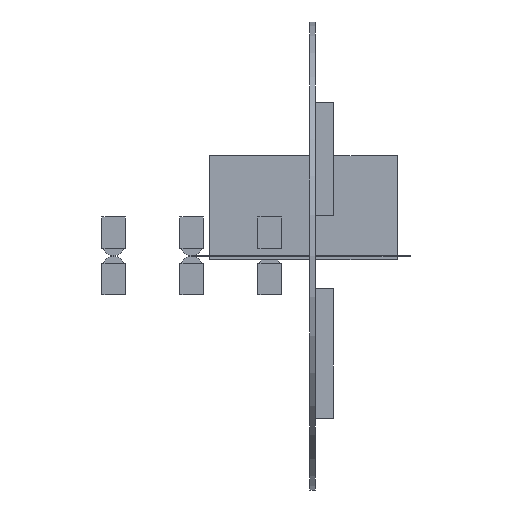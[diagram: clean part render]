
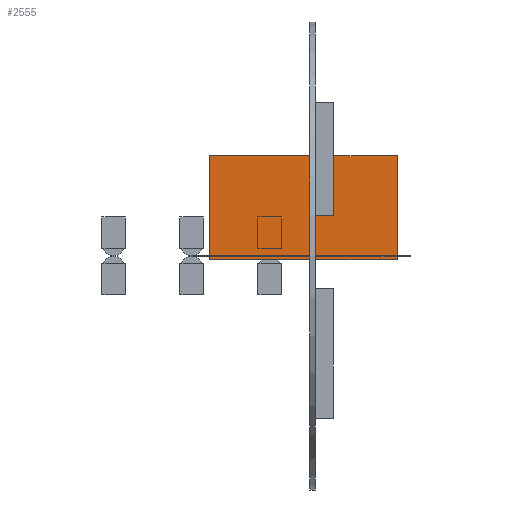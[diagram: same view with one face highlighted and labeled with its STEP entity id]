
A CAD part, left-side view. The second image highlights one B-rep face of the part: STEP entity #2555.
In plain terms, the highlighted planar face has unit normal (-1, 0, 0).
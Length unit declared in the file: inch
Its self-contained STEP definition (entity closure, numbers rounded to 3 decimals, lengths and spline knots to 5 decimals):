
#87 = ORIENTED_EDGE ( 'NONE', *, *, #2114, .T. ) ;
#349 = LINE ( 'NONE', #419, #716 ) ;
#419 = CARTESIAN_POINT ( 'NONE',  ( -27.55906, 27.55906, 78.74016 ) ) ;
#482 = VERTEX_POINT ( 'NONE', #1440 ) ;
#552 = CARTESIAN_POINT ( 'NONE',  ( -27.55906, 169.29134, 78.74016 ) ) ;
#716 = VECTOR ( 'NONE', #2274, 39.37008 ) ;
#735 = VERTEX_POINT ( 'NONE', #1365 ) ;
#764 = EDGE_CURVE ( 'NONE', #2405, #3423, #349, .T. ) ;
#870 = LINE ( 'NONE', #2791, #3276 ) ;
#873 = CARTESIAN_POINT ( 'NONE',  ( -27.55906, 27.55906, 78.74016 ) ) ;
#1193 = DIRECTION ( 'NONE',  ( 0., 0., -1. ) ) ;
#1234 = VECTOR ( 'NONE', #2141, 39.37008 ) ;
#1365 = CARTESIAN_POINT ( 'NONE',  ( -27.55906, 169.29134, 0. ) ) ;
#1413 = CARTESIAN_POINT ( 'NONE',  ( -27.55906, 27.55906, 78.74016 ) ) ;
#1440 = CARTESIAN_POINT ( 'NONE',  ( -27.55906, 27.55906, 0. ) ) ;
#1553 = LINE ( 'NONE', #552, #3483 ) ;
#1590 = CARTESIAN_POINT ( 'NONE',  ( -27.55906, 169.29134, 78.74016 ) ) ;
#1840 = DIRECTION ( 'NONE',  ( 0., -1., 0. ) ) ;
#2114 = EDGE_CURVE ( 'NONE', #2405, #735, #1553, .T. ) ;
#2141 = DIRECTION ( 'NONE',  ( 0., 0., -1. ) ) ;
#2274 = DIRECTION ( 'NONE',  ( 0., -1., 0. ) ) ;
#2280 = ORIENTED_EDGE ( 'NONE', *, *, #3203, .F. ) ;
#2405 = VERTEX_POINT ( 'NONE', #1590 ) ;
#2555 = ADVANCED_FACE ( 'NONE', ( #3930 ), #2703, .F. ) ;
#2703 = PLANE ( 'NONE',  #2991 ) ;
#2791 = CARTESIAN_POINT ( 'NONE',  ( -27.55906, 27.55906, 0. ) ) ;
#2991 = AXIS2_PLACEMENT_3D ( 'NONE', #1413, #3322, #3028 ) ;
#3028 = DIRECTION ( 'NONE',  ( 0., 0., -1. ) ) ;
#3175 = ORIENTED_EDGE ( 'NONE', *, *, #764, .F. ) ;
#3203 = EDGE_CURVE ( 'NONE', #3423, #482, #3777, .T. ) ;
#3276 = VECTOR ( 'NONE', #1840, 39.37008 ) ;
#3322 = DIRECTION ( 'NONE',  ( 1., 0., 0. ) ) ;
#3373 = EDGE_LOOP ( 'NONE', ( #4050, #2280, #3175, #87 ) ) ;
#3423 = VERTEX_POINT ( 'NONE', #3625 ) ;
#3483 = VECTOR ( 'NONE', #1193, 39.37008 ) ;
#3625 = CARTESIAN_POINT ( 'NONE',  ( -27.55906, 27.55906, 78.74016 ) ) ;
#3777 = LINE ( 'NONE', #873, #1234 ) ;
#3796 = EDGE_CURVE ( 'NONE', #735, #482, #870, .T. ) ;
#3930 = FACE_OUTER_BOUND ( 'NONE', #3373, .T. ) ;
#4050 = ORIENTED_EDGE ( 'NONE', *, *, #3796, .T. ) ;
